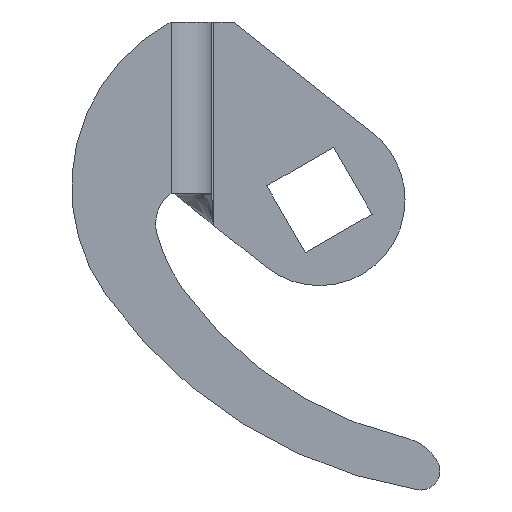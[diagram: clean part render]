
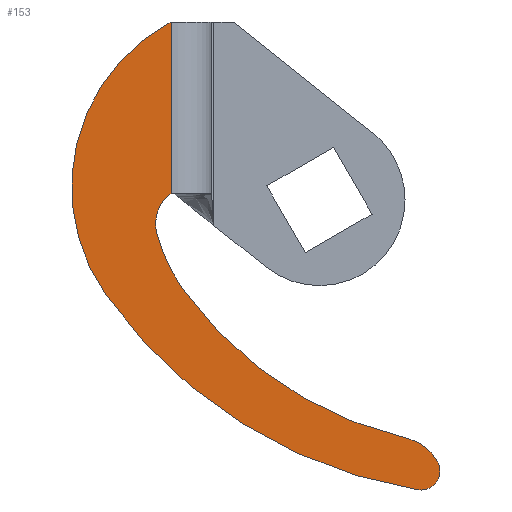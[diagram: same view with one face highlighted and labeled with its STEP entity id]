
A CAD part, front view. The second image highlights one B-rep face of the part: STEP entity #153.
In plain terms, the highlighted planar face has unit normal (0, -1, 0).
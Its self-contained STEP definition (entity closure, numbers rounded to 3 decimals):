
#42 = LINE ( 'NONE', #1175, #50 ) ;
#48 = EDGE_CURVE ( 'NONE', #1124, #782, #553, .T. ) ;
#50 = VECTOR ( 'NONE', #761, 1000. ) ;
#96 = CIRCLE ( 'NONE', #871, 2. ) ;
#105 = EDGE_CURVE ( 'NONE', #1003, #996, #482, .T. ) ;
#140 = DIRECTION ( 'NONE',  ( 1., 0., 0. ) ) ;
#153 = ADVANCED_FACE ( 'NONE', ( #451 ), #846, .T. ) ;
#160 = CARTESIAN_POINT ( 'NONE',  ( 0.516, -22., -17.189 ) ) ;
#176 = DIRECTION ( 'NONE',  ( 0., -1., 0. ) ) ;
#185 = CARTESIAN_POINT ( 'NONE',  ( -2.12, -22., -18.62 ) ) ;
#191 = DIRECTION ( 'NONE',  ( 0., 1., 0. ) ) ;
#209 = CARTESIAN_POINT ( 'NONE',  ( -0.992, -22., -13.749 ) ) ;
#228 = AXIS2_PLACEMENT_3D ( 'NONE', #185, #176, #140 ) ;
#249 = CIRCLE ( 'NONE', #1032, 2. ) ;
#259 = DIRECTION ( 'NONE',  ( 1., 0., 0. ) ) ;
#260 = CARTESIAN_POINT ( 'NONE',  ( -32.612, -22., 1.355 ) ) ;
#262 = AXIS2_PLACEMENT_3D ( 'NONE', #321, #308, #301 ) ;
#263 = EDGE_CURVE ( 'NONE', #996, #1144, #419, .T. ) ;
#268 = CIRCLE ( 'NONE', #1008, 4. ) ;
#270 = DIRECTION ( 'NONE',  ( 0., -1., 0. ) ) ;
#295 = CARTESIAN_POINT ( 'NONE',  ( -21.5, -22., 30. ) ) ;
#301 = DIRECTION ( 'NONE',  ( 1., 0., 0. ) ) ;
#308 = DIRECTION ( 'NONE',  ( 0., -1., 0. ) ) ;
#318 = CIRCLE ( 'NONE', #228, 5. ) ;
#320 = CIRCLE ( 'NONE', #262, 19.609 ) ;
#321 = CARTESIAN_POINT ( 'NONE',  ( -16.591, -22., 12.662 ) ) ;
#370 = CARTESIAN_POINT ( 'NONE',  ( -25.75, -22., 30. ) ) ;
#397 = DIRECTION ( 'NONE',  ( 0., -1., 0. ) ) ;
#419 = CIRCLE ( 'NONE', #681, 17.5 ) ;
#451 = FACE_OUTER_BOUND ( 'NONE', #1095, .T. ) ;
#460 = EDGE_CURVE ( 'NONE', #867, #1124, #320, .T. ) ;
#482 = CIRCLE ( 'NONE', #856, 40. ) ;
#493 = EDGE_CURVE ( 'NONE', #1110, #1003, #318, .T. ) ;
#503 = CARTESIAN_POINT ( 'NONE',  ( 8.036, -22., 25.218 ) ) ;
#511 = DIRECTION ( 'NONE',  ( 1., 0., 0. ) ) ;
#525 = CARTESIAN_POINT ( 'NONE',  ( 8.239, -22., 30.186 ) ) ;
#532 = CARTESIAN_POINT ( 'NONE',  ( -23.366, -22., 8.788 ) ) ;
#553 = CIRCLE ( 'NONE', #1006, 50. ) ;
#555 = EDGE_CURVE ( 'NONE', #749, #1082, #268, .T. ) ;
#560 = EDGE_CURVE ( 'NONE', #782, #852, #249, .T. ) ;
#581 = DIRECTION ( 'NONE',  ( -1., 0., 0. ) ) ;
#589 = DIRECTION ( 'NONE',  ( 0., -1., 0. ) ) ;
#629 = CARTESIAN_POINT ( 'NONE',  ( -24.557, -22., 2.031 ) ) ;
#652 = DIRECTION ( 'NONE',  ( -1., 0., 0. ) ) ;
#681 = AXIS2_PLACEMENT_3D ( 'NONE', #1064, #1055, #1034 ) ;
#727 = DIRECTION ( 'NONE',  ( 0., 1., 0. ) ) ;
#733 = CARTESIAN_POINT ( 'NONE',  ( 0.194, -22., -19.163 ) ) ;
#735 = CARTESIAN_POINT ( 'NONE',  ( 2.516, -22., -17.189 ) ) ;
#748 = CARTESIAN_POINT ( 'NONE',  ( -27.366, -22., 8.788 ) ) ;
#749 = VERTEX_POINT ( 'NONE', #748 ) ;
#757 = CARTESIAN_POINT ( 'NONE',  ( -23.366, -22., 8.788 ) ) ;
#761 = DIRECTION ( 'NONE',  ( 0., 0., -1. ) ) ;
#765 = CARTESIAN_POINT ( 'NONE',  ( 0.516, -22., -17.189 ) ) ;
#767 = ORIENTED_EDGE ( 'NONE', *, *, #263, .T. ) ;
#769 = ORIENTED_EDGE ( 'NONE', *, *, #1125, .T. ) ;
#772 = ORIENTED_EDGE ( 'NONE', *, *, #555, .T. ) ;
#778 = ORIENTED_EDGE ( 'NONE', *, *, #1090, .F. ) ;
#779 = AXIS2_PLACEMENT_3D ( 'NONE', #295, #589, #511 ) ;
#781 = DIRECTION ( 'NONE',  ( 1., 0., 0. ) ) ;
#782 = VERTEX_POINT ( 'NONE', #733 ) ;
#784 = ORIENTED_EDGE ( 'NONE', *, *, #460, .T. ) ;
#791 = DIRECTION ( 'NONE',  ( 0., -1., 0. ) ) ;
#794 = ORIENTED_EDGE ( 'NONE', *, *, #48, .T. ) ;
#795 = ORIENTED_EDGE ( 'NONE', *, *, #560, .T. ) ;
#796 = ORIENTED_EDGE ( 'NONE', *, *, #1050, .T. ) ;
#797 = ORIENTED_EDGE ( 'NONE', *, *, #493, .T. ) ;
#802 = ORIENTED_EDGE ( 'NONE', *, *, #105, .T. ) ;
#846 = PLANE ( 'NONE',  #779 ) ;
#849 = AXIS2_PLACEMENT_3D ( 'NONE', #757, #727, #652 ) ;
#852 = VERTEX_POINT ( 'NONE', #735 ) ;
#856 = AXIS2_PLACEMENT_3D ( 'NONE', #503, #191, #581 ) ;
#867 = VERTEX_POINT ( 'NONE', #370 ) ;
#871 = AXIS2_PLACEMENT_3D ( 'NONE', #765, #791, #781 ) ;
#876 = DIRECTION ( 'NONE',  ( 0., 1., 0. ) ) ;
#888 = CARTESIAN_POINT ( 'NONE',  ( -27.238, -22., 7.785 ) ) ;
#889 = DIRECTION ( 'NONE',  ( 1., 0., 0. ) ) ;
#910 = CIRCLE ( 'NONE', #849, 4. ) ;
#996 = VERTEX_POINT ( 'NONE', #629 ) ;
#1003 = VERTEX_POINT ( 'NONE', #209 ) ;
#1006 = AXIS2_PLACEMENT_3D ( 'NONE', #525, #270, #259 ) ;
#1008 = AXIS2_PLACEMENT_3D ( 'NONE', #532, #876, #1117 ) ;
#1032 = AXIS2_PLACEMENT_3D ( 'NONE', #160, #397, #889 ) ;
#1034 = DIRECTION ( 'NONE',  ( -1., 0., 0. ) ) ;
#1046 = CARTESIAN_POINT ( 'NONE',  ( 2.274, -22., -16.235 ) ) ;
#1050 = EDGE_CURVE ( 'NONE', #852, #1110, #96, .T. ) ;
#1055 = DIRECTION ( 'NONE',  ( 0., 1., 0. ) ) ;
#1064 = CARTESIAN_POINT ( 'NONE',  ( -10.297, -22., 12.175 ) ) ;
#1076 = CARTESIAN_POINT ( 'NONE',  ( -25.75, -22., 12. ) ) ;
#1082 = VERTEX_POINT ( 'NONE', #1076 ) ;
#1090 = EDGE_CURVE ( 'NONE', #867, #1082, #42, .T. ) ;
#1095 = EDGE_LOOP ( 'NONE', ( #767, #769, #772, #778, #784, #794, #795, #796, #797, #802 ) ) ;
#1110 = VERTEX_POINT ( 'NONE', #1046 ) ;
#1117 = DIRECTION ( 'NONE',  ( -1., 0., 0. ) ) ;
#1124 = VERTEX_POINT ( 'NONE', #260 ) ;
#1125 = EDGE_CURVE ( 'NONE', #1144, #749, #910, .T. ) ;
#1144 = VERTEX_POINT ( 'NONE', #888 ) ;
#1175 = CARTESIAN_POINT ( 'NONE',  ( -25.75, -22., 30. ) ) ;
